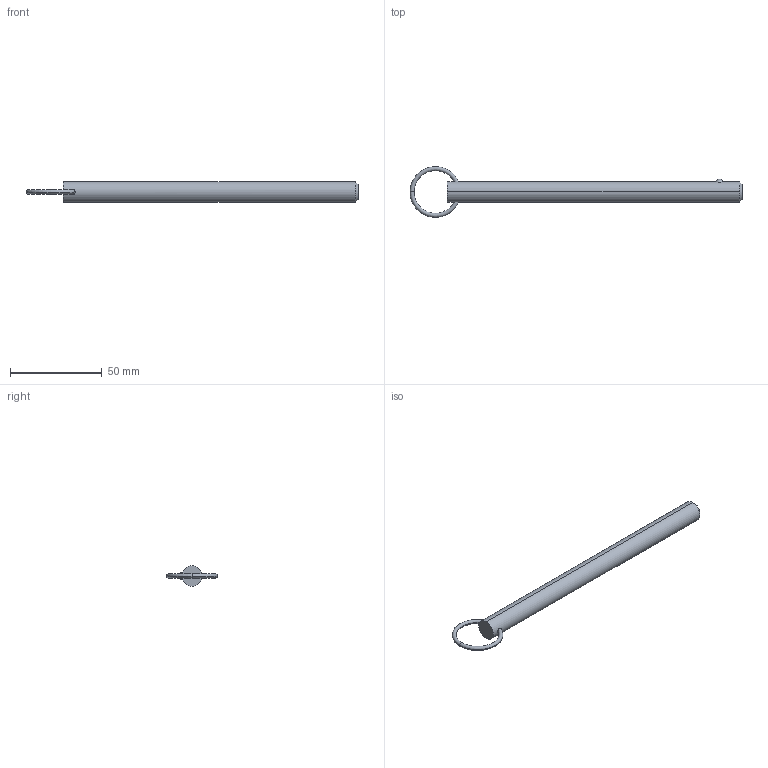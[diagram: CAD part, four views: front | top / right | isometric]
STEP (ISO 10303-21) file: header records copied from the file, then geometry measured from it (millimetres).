
FILE_DESCRIPTION (( 'STEP AP203' ), '1' );
FILE_NAME ('33012.W4355.step', '2024-11-01T14:12:16', ( '' ), ( '' ), 'SwSTEP 2.0', 'SolidWorks 2019', '' );
FILE_SCHEMA (( 'CONFIG_CONTROL_DESIGN' ));
Length unit declared in the file: millimetre
Products named in the file (3): Part1_33012.W4355; 33012.W4355; Part2_33012.W4355
Assembly tree (2 placements, depth 2):
  33012.W4355
    Part1_33012.W4355
    Part2_33012.W4355
Bounding box: 180.73 x 27.62 x 11.11 mm (x, y, z)
Volume: 15763.4 mm3; surface area: 6409.5 mm2
Topology: 2 solids, 2 shells, 16 faces, 31 edges, 18 vertices
Faces by surface type: torus 8, sphere 2, cone 2, cylinder 2, plane 2
Entity records: 863 total; most frequent: CARTESIAN_POINT 220, DIRECTION 88, ORIENTED_EDGE 62, AXIS2_PLACEMENT_3D 42, EDGE_CURVE 31, PERSON_AND_ORGANIZATION 26, CIRCLE 21, LOCAL_TIME 19
